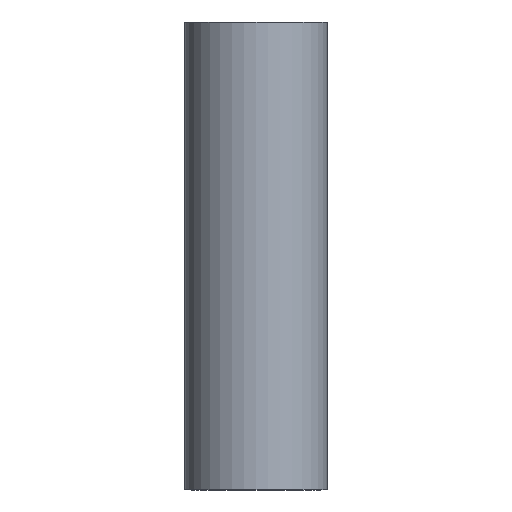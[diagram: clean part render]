
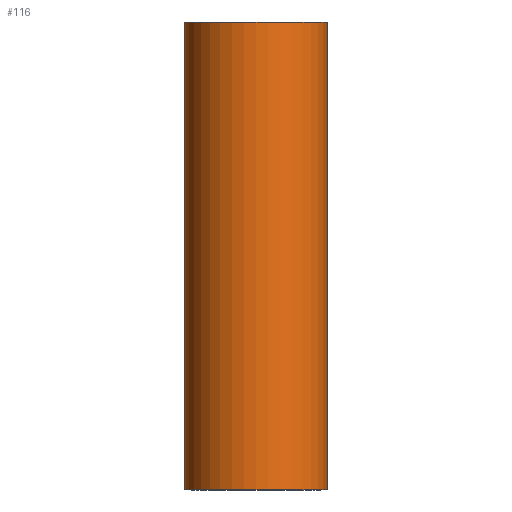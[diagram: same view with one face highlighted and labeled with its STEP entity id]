
A CAD part, left-side view. The second image highlights one B-rep face of the part: STEP entity #116.
In plain terms, the highlighted cylindrical face has radius 16 mm (diameter 32 mm), a full revolution.
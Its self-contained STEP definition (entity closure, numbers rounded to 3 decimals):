
#23=FACE_BOUND('',#51,.T.);
#24=FACE_BOUND('',#52,.T.);
#30=CIRCLE('',#151,16.);
#31=CIRCLE('',#153,16.);
#37=FACE_OUTER_BOUND('',#50,.T.);
#50=EDGE_LOOP('',(#93));
#51=EDGE_LOOP('',(#94,#95));
#52=EDGE_LOOP('',(#96));
#57=ELLIPSE('',#146,41.81,16.);
#58=ELLIPSE('',#147,17.318,16.);
#64=VERTEX_POINT('',#205);
#65=VERTEX_POINT('',#206);
#67=VERTEX_POINT('',#213);
#68=VERTEX_POINT('',#216);
#74=EDGE_CURVE('',#64,#65,#57,.T.);
#75=EDGE_CURVE('',#65,#64,#58,.T.);
#77=EDGE_CURVE('',#67,#67,#30,.T.);
#78=EDGE_CURVE('',#68,#68,#31,.T.);
#93=ORIENTED_EDGE('',*,*,#77,.T.);
#94=ORIENTED_EDGE('',*,*,#75,.T.);
#95=ORIENTED_EDGE('',*,*,#74,.T.);
#96=ORIENTED_EDGE('',*,*,#78,.F.);
#102=CYLINDRICAL_SURFACE('',#152,16.);
#116=ADVANCED_FACE('',(#37,#23,#24),#102,.T.);
#146=AXIS2_PLACEMENT_3D('',#207,#173,#174);
#147=AXIS2_PLACEMENT_3D('',#208,#175,#176);
#151=AXIS2_PLACEMENT_3D('',#214,#183,#184);
#152=AXIS2_PLACEMENT_3D('',#215,#185,#186);
#153=AXIS2_PLACEMENT_3D('',#217,#187,#188);
#173=DIRECTION('center_axis',(-0.924,0.,0.383));
#174=DIRECTION('ref_axis',(-0.383,0.,-0.924));
#175=DIRECTION('center_axis',(-0.383,0.,-0.924));
#176=DIRECTION('ref_axis',(0.924,0.,-0.383));
#183=DIRECTION('center_axis',(0.,0.,-1.));
#184=DIRECTION('ref_axis',(1.,0.,0.));
#185=DIRECTION('center_axis',(0.,0.,-1.));
#186=DIRECTION('ref_axis',(-1.,0.,0.));
#187=DIRECTION('center_axis',(0.,0.,-1.));
#188=DIRECTION('ref_axis',(1.,0.,0.));
#205=CARTESIAN_POINT('',(0.,-16.,35.));
#206=CARTESIAN_POINT('',(0.,16.,35.));
#207=CARTESIAN_POINT('Origin',(0.,0.,35.));
#208=CARTESIAN_POINT('Origin',(0.,0.,35.));
#213=CARTESIAN_POINT('',(-16.,0.,105.));
#214=CARTESIAN_POINT('Origin',(0.,0.,105.));
#215=CARTESIAN_POINT('Origin',(0.,0.,52.5));
#216=CARTESIAN_POINT('',(-16.,0.,0.));
#217=CARTESIAN_POINT('Origin',(0.,0.,0.));
